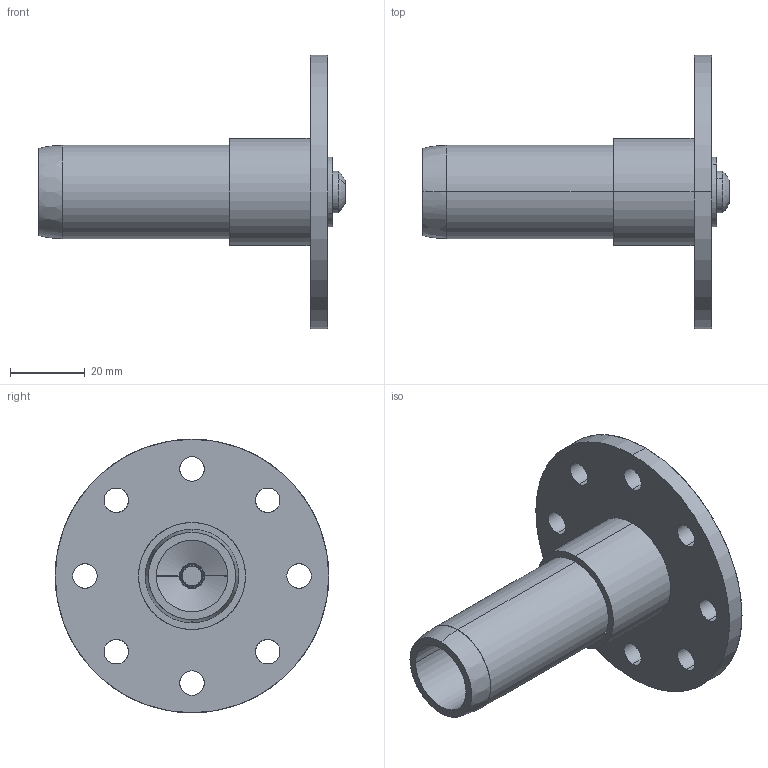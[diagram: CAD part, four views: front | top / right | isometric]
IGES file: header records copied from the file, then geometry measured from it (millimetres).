
Start section: SolidWorks IGES file using analytic representation for surfaces
Global section: file name: \\SERVER3\Design\_New Design Drive Folder List\_Design Vault\AAI\Modular Round Tube Connectors\Solidworks Models\STP Files\12202013\1.000 Inch Modular Connectors\Assemblies\1 Inch 8 Hole Keyed Disc Kit.IGS; native system: SolidWorks 2013; preprocessor: SolidWorks 2013; author: tbraun; date: 140110.113631; units: inch
Bounding box: 81.78 x 73.03 x 73.03 mm (x, y, z)
Surface area: 22108.9 mm2 (no closed solid volume)
Topology: 0 solids, 0 shells, 232 faces, 3353 edges, 3353 vertices
Faces by surface type: revolution 184, bspline 48
